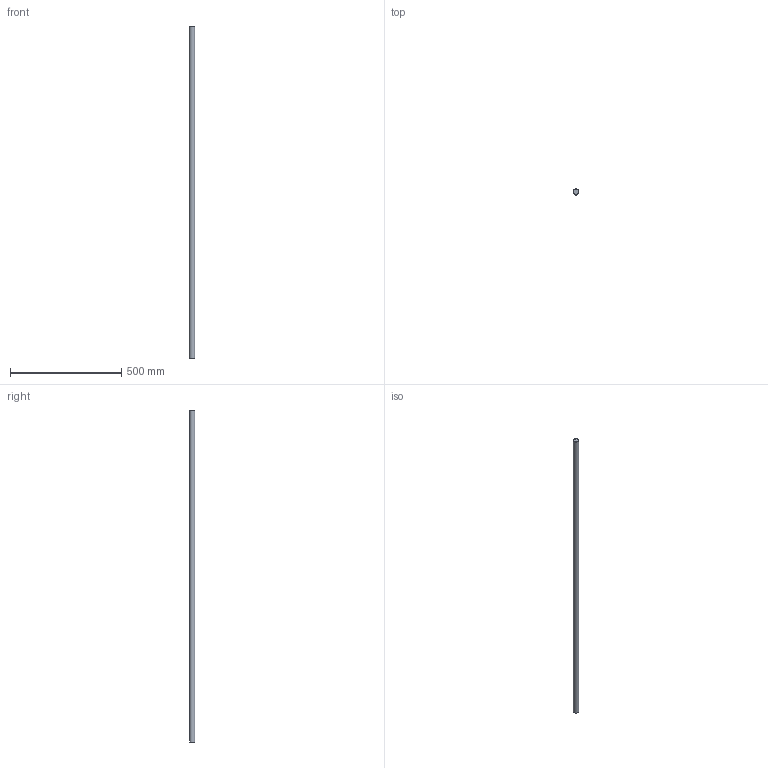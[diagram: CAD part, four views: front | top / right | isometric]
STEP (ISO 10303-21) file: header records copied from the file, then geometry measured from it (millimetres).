
FILE_DESCRIPTION(/* description */ (''),/* implementation_level */ '2;1');
FILE_NAME(/* name */ 'S:\UFFICIO TECNICO 2019\PRODOTTI ROTALIANA\SOUVLAKI\CONFIGURATORE\FILES X CONFIGURATORE\ipt INVENTOR\ASVBL003_binario LED 1490mm.stp',/* time_stamp */ '2024-03-13T10:15:46+01:00',/* author */ ('mtesta'),/* organization */ (''),/* preprocessor_version */ 'ST-DEVELOPER v18.1',/* originating_system */ 'Autodesk Inventor 2021',/* authorisation */ '');
FILE_SCHEMA (('AUTOMOTIVE_DESIGN { 1 0 10303 214 3 1 1 }'));
Length unit declared in the file: millimetre
Products named in the file (1): A05564
Bounding box: 24.97 x 25.05 x 1490 mm (x, y, z)
Volume: 680539.5 mm3; surface area: 166105.9 mm2
Topology: 2 solids, 2 shells, 26 faces, 66 edges, 44 vertices
Faces by surface type: plane 13, cylinder 13
Entity records: 865 total; most frequent: DIRECTION 146, CARTESIAN_POINT 137, ORIENTED_EDGE 132, EDGE_CURVE 66, AXIS2_PLACEMENT_3D 53, VERTEX_POINT 44, LINE 40, VECTOR 40
